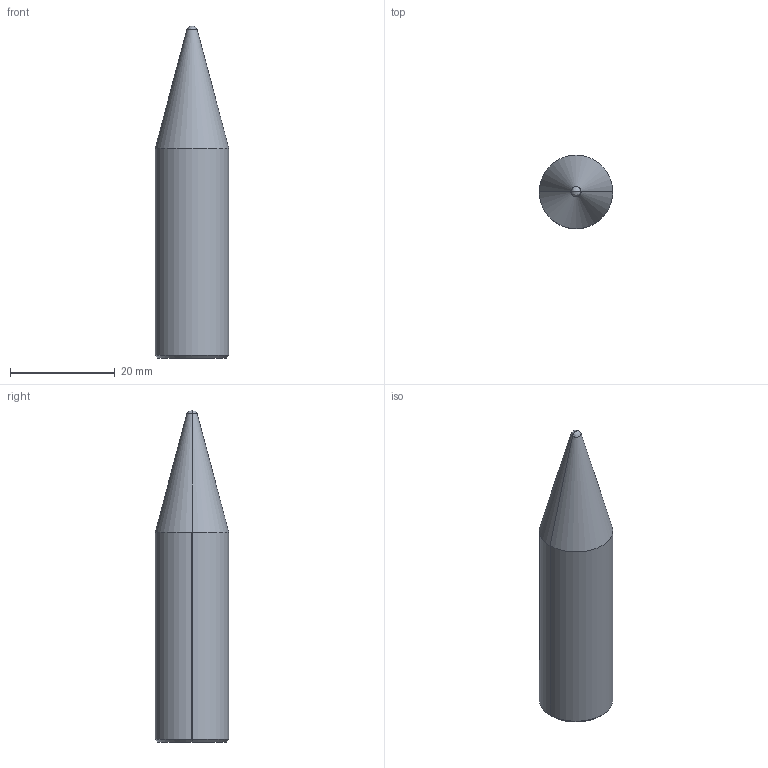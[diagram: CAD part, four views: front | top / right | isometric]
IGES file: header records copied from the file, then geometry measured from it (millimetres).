
Global section: file name: E:\UnigraphicsGraphicData\MISUMI_PRESS-PARTS\IGES\3d_snsth15-p14.00-b40_02977_r00.igs; native system: NX V5.0; preprocessor: UGS NX IGES V5.0; author: MISUMI; date: 20110105.162855; units: millimetre
Bounding box: 14 x 14 x 63.26 mm (x, y, z)
Surface area: 2714.8 mm2 (no closed solid volume)
Topology: 0 solids, 0 shells, 12 faces, 64 edges, 62 vertices
Faces by surface type: bspline 12
